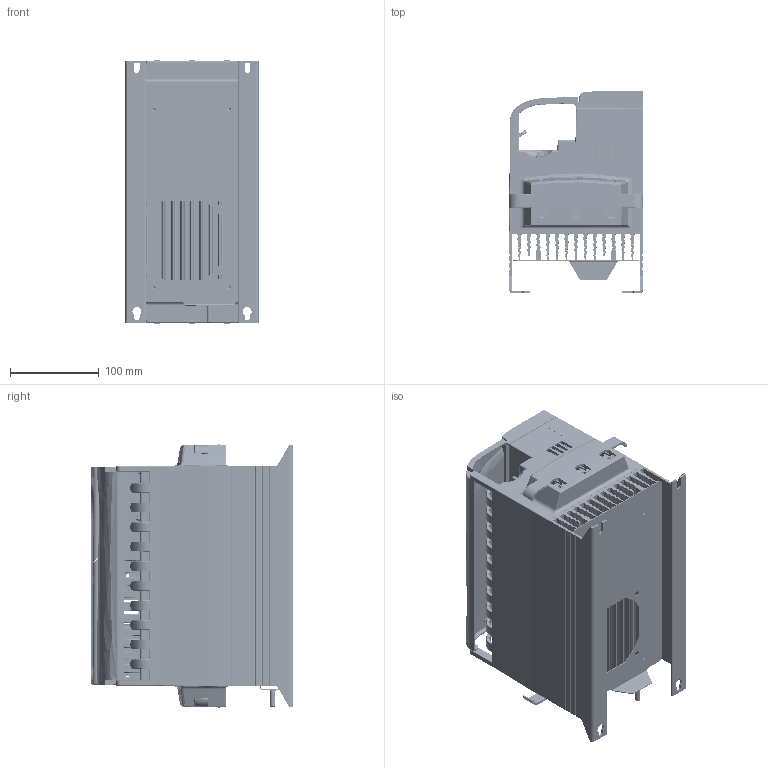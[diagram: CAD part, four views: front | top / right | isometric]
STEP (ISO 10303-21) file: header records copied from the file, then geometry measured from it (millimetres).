
FILE_DESCRIPTION (( 'STEP AP214' ), '1' );
FILE_NAME ('722-13709-00B.STEP', '2012-01-19T22:32:58', ( 'Mech Eng Contractor' ), ( 'AuCom Electronics Ltd' ), 'SwSTEP 2.0', 'SolidWorks 2010', '' );
FILE_SCHEMA (( 'AUTOMOTIVE_DESIGN' ));
Length unit declared in the file: millimetre
Products named in the file (1): 722-13709-00B
Bounding box: 150.82 x 226.8 x 295.75 mm (x, y, z)
Volume: 3941088.3 mm3; surface area: 1003933.5 mm2
Topology: 10 solids, 10 shells, 10466 faces, 27584 edges, 17629 vertices
Faces by surface type: plane 4926, bspline 2706, cylinder 1991, cone 357, torus 282, sphere 204
Entity records: 570632 total; most frequent: CARTESIAN_POINT 217392, ORIENTED_EDGE 54890, DIRECTION 40294, EDGE_CURVE 27445, VERTEX_POINT 17626, LINE 16276, VECTOR 16276, AXIS2_PLACEMENT_3D 12009
